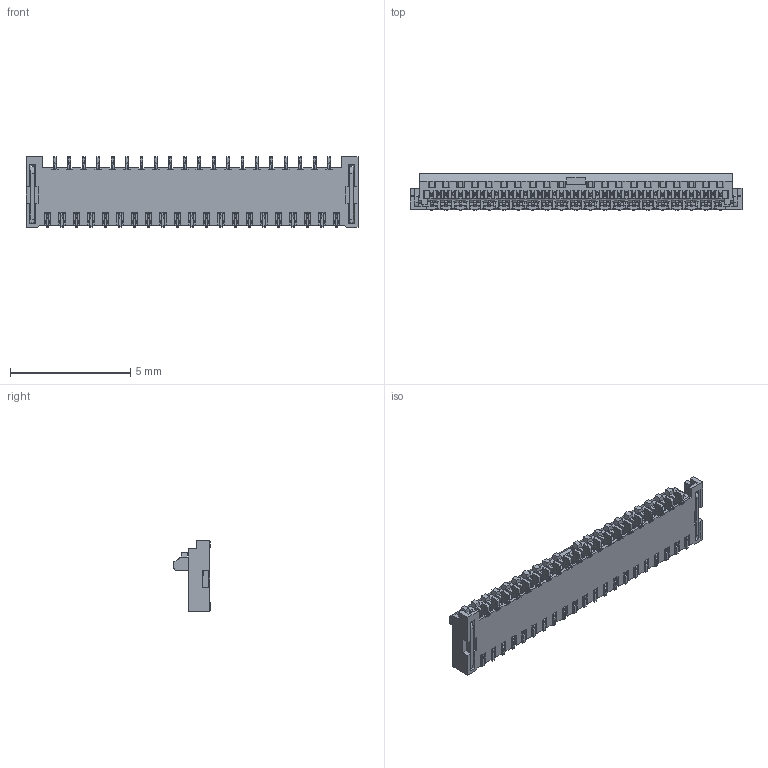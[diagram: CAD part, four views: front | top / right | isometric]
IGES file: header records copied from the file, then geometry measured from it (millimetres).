
Start section: SolidWorks IGES file using analytic representation for surfaces
Bounding box: 13.8 x 1.5 x 2.95 mm (x, y, z)
Surface area: 198.9 mm2 (no closed solid volume)
Topology: 0 solids, 0 shells, 3866 faces, 23500 edges, 23500 vertices
Faces by surface type: bspline 3212, revolution 654
